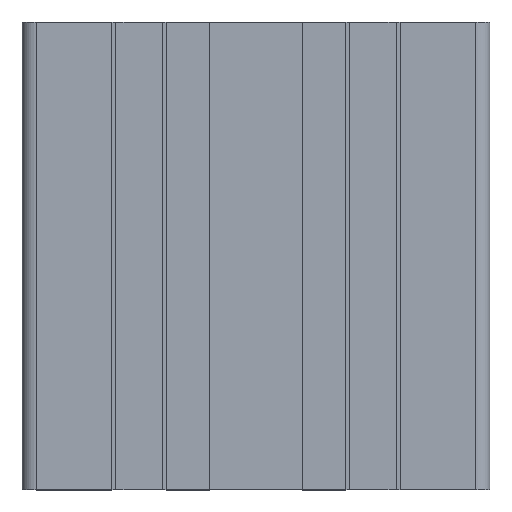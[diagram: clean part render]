
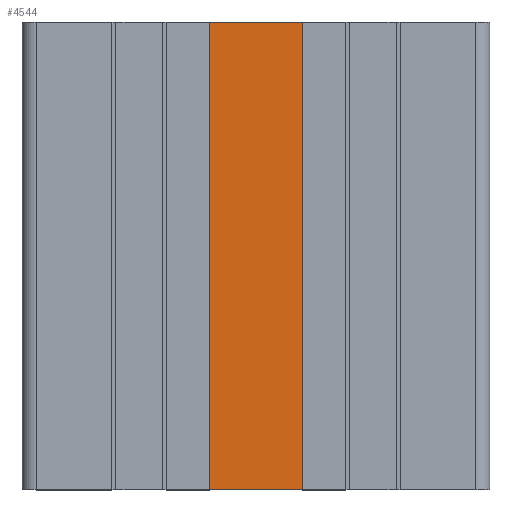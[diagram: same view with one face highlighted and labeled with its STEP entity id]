
A CAD part, top view. The second image highlights one B-rep face of the part: STEP entity #4544.
In plain terms, the highlighted planar face has unit normal (0, 0, 1).
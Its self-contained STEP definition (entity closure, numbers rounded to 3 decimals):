
#89 = PLANE ( 'NONE',  #367 ) ;
#97 = EDGE_LOOP ( 'NONE', ( #7299, #573, #6140, #5566 ) ) ;
#133 = DIRECTION ( 'NONE',  ( -1., 0., 0. ) ) ;
#193 = LINE ( 'NONE', #5434, #2967 ) ;
#227 = VERTEX_POINT ( 'NONE', #7944 ) ;
#367 = AXIS2_PLACEMENT_3D ( 'NONE', #3312, #2714, #133 ) ;
#573 = ORIENTED_EDGE ( 'NONE', *, *, #2855, .F. ) ;
#690 = FACE_OUTER_BOUND ( 'NONE', #97, .T. ) ;
#894 = DIRECTION ( 'NONE',  ( 0., -1., 0. ) ) ;
#1095 = CARTESIAN_POINT ( 'NONE',  ( -10., 50., 24. ) ) ;
#1481 = VECTOR ( 'NONE', #3700, 1000. ) ;
#1522 = VERTEX_POINT ( 'NONE', #3827 ) ;
#1557 = LINE ( 'NONE', #4169, #8108 ) ;
#2119 = EDGE_CURVE ( 'NONE', #227, #3756, #4761, .T. ) ;
#2176 = DIRECTION ( 'NONE',  ( 1., 0., 0. ) ) ;
#2714 = DIRECTION ( 'NONE',  ( 0., 0., -1. ) ) ;
#2855 = EDGE_CURVE ( 'NONE', #1522, #6531, #1557, .T. ) ;
#2864 = CARTESIAN_POINT ( 'NONE',  ( -10., 50., 24. ) ) ;
#2967 = VECTOR ( 'NONE', #2176, 1000. ) ;
#3056 = LINE ( 'NONE', #1095, #1481 ) ;
#3312 = CARTESIAN_POINT ( 'NONE',  ( -10., 50., 24. ) ) ;
#3430 = DIRECTION ( 'NONE',  ( 0., -1., 0. ) ) ;
#3700 = DIRECTION ( 'NONE',  ( 1., 0., 0. ) ) ;
#3756 = VERTEX_POINT ( 'NONE', #5526 ) ;
#3827 = CARTESIAN_POINT ( 'NONE',  ( 10., 50., 24. ) ) ;
#4169 = CARTESIAN_POINT ( 'NONE',  ( 10., 50., 24. ) ) ;
#4544 = ADVANCED_FACE ( 'NONE', ( #690 ), #89, .F. ) ;
#4672 = VECTOR ( 'NONE', #894, 1000. ) ;
#4761 = LINE ( 'NONE', #2864, #4672 ) ;
#5434 = CARTESIAN_POINT ( 'NONE',  ( -10., -50., 24. ) ) ;
#5526 = CARTESIAN_POINT ( 'NONE',  ( -10., -50., 24. ) ) ;
#5566 = ORIENTED_EDGE ( 'NONE', *, *, #2119, .T. ) ;
#6140 = ORIENTED_EDGE ( 'NONE', *, *, #7364, .F. ) ;
#6299 = CARTESIAN_POINT ( 'NONE',  ( 10., -50., 24. ) ) ;
#6375 = EDGE_CURVE ( 'NONE', #3756, #6531, #193, .T. ) ;
#6531 = VERTEX_POINT ( 'NONE', #6299 ) ;
#7299 = ORIENTED_EDGE ( 'NONE', *, *, #6375, .T. ) ;
#7364 = EDGE_CURVE ( 'NONE', #227, #1522, #3056, .T. ) ;
#7944 = CARTESIAN_POINT ( 'NONE',  ( -10., 50., 24. ) ) ;
#8108 = VECTOR ( 'NONE', #3430, 1000. ) ;
